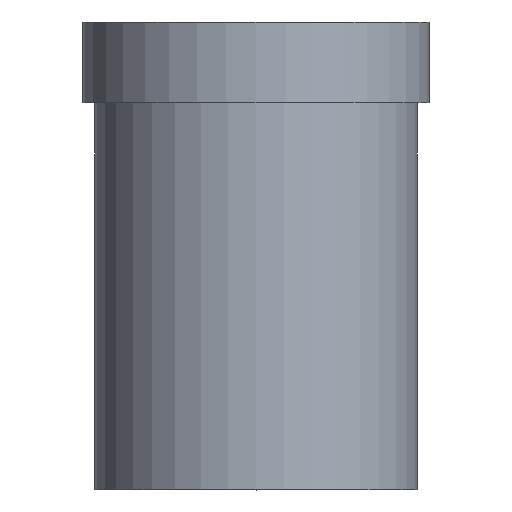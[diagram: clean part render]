
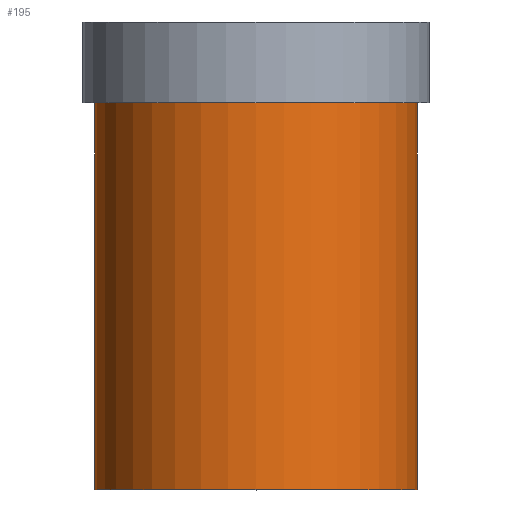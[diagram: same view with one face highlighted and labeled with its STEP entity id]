
A CAD part, top view. The second image highlights one B-rep face of the part: STEP entity #195.
In plain terms, the highlighted cylindrical face has radius 40 mm (diameter 80 mm), a full revolution.
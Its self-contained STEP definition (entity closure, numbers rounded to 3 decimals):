
#32=ORIENTED_EDGE('',*,*,#50,.T.);
#33=ORIENTED_EDGE('',*,*,#49,.F.);
#49=EDGE_CURVE('',#59,#59,#69,.T.);
#50=EDGE_CURVE('',#60,#60,#70,.T.);
#59=VERTEX_POINT('',#280);
#60=VERTEX_POINT('',#283);
#69=CIRCLE('',#213,40.);
#70=CIRCLE('',#215,40.);
#82=EDGE_LOOP('',(#32));
#83=EDGE_LOOP('',(#33));
#102=FACE_BOUND('',#82,.T.);
#103=FACE_BOUND('',#83,.T.);
#117=CYLINDRICAL_SURFACE('',#214,40.);
#195=ADVANCED_FACE('',(#102,#103),#117,.T.);
#213=AXIS2_PLACEMENT_3D('',#279,#241,#242);
#214=AXIS2_PLACEMENT_3D('',#281,#243,#244);
#215=AXIS2_PLACEMENT_3D('',#282,#245,#246);
#241=DIRECTION('',(0.,-1.,0.));
#242=DIRECTION('',(0.,0.,-1.));
#243=DIRECTION('',(0.,-1.,0.));
#244=DIRECTION('',(0.,0.,-1.));
#245=DIRECTION('',(0.,-1.,0.));
#246=DIRECTION('',(0.,0.,-1.));
#279=CARTESIAN_POINT('',(0.,0.,0.));
#280=CARTESIAN_POINT('',(0.,0.,-40.));
#281=CARTESIAN_POINT('',(0.,0.,0.));
#282=CARTESIAN_POINT('',(0.,96.,0.));
#283=CARTESIAN_POINT('',(0.,96.,-40.));
